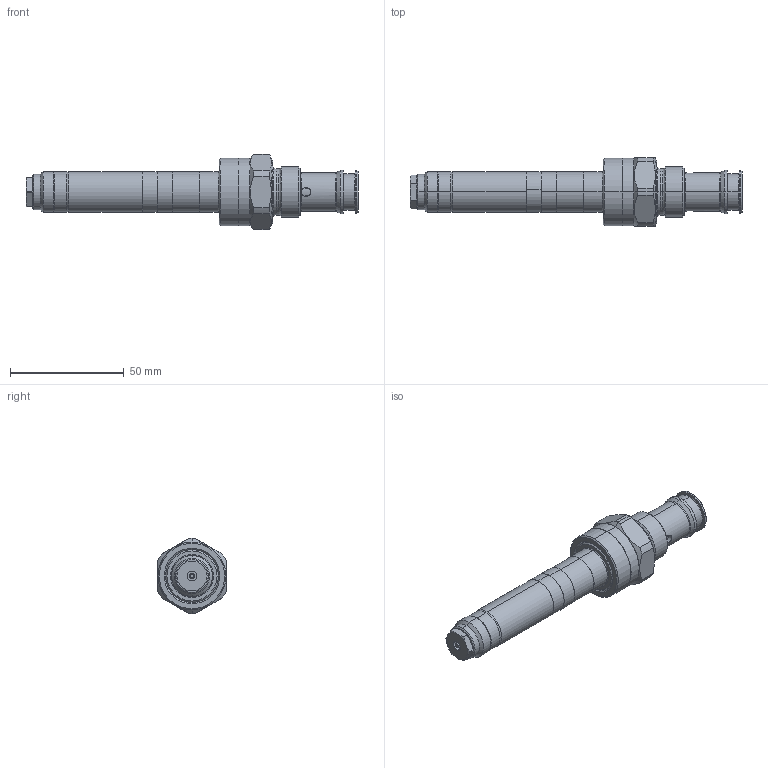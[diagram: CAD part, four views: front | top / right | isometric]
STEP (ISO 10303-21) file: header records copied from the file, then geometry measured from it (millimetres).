
FILE_DESCRIPTION (( 'STEP AP214' ), '1' );
FILE_NAME ('DOBPM22-X5.STEP', '2015-07-22T08:42:54', ( '' ), ( '' ), 'SwSTEP 2.0', 'SolidWorks 2014', '' );
FILE_SCHEMA (( 'AUTOMOTIVE_DESIGN' ));
Length unit declared in the file: millimetre
Products named in the file (2): DOBPM22-X5
Bounding box: 146 x 30 x 33 mm (x, y, z)
Volume: 47507.4 mm3; surface area: 13084.8 mm2
Topology: 2 solids, 6 shells, 217 faces, 487 edges, 298 vertices
Faces by surface type: cylinder 77, cone 52, plane 46, torus 34, bspline 8
Entity records: 8961 total; most frequent: CARTESIAN_POINT 1600, DIRECTION 1141, ORIENTED_EDGE 974, AXIS2_PLACEMENT_3D 495, EDGE_CURVE 487, VERTEX_POINT 298, CIRCLE 284, EDGE_LOOP 243
